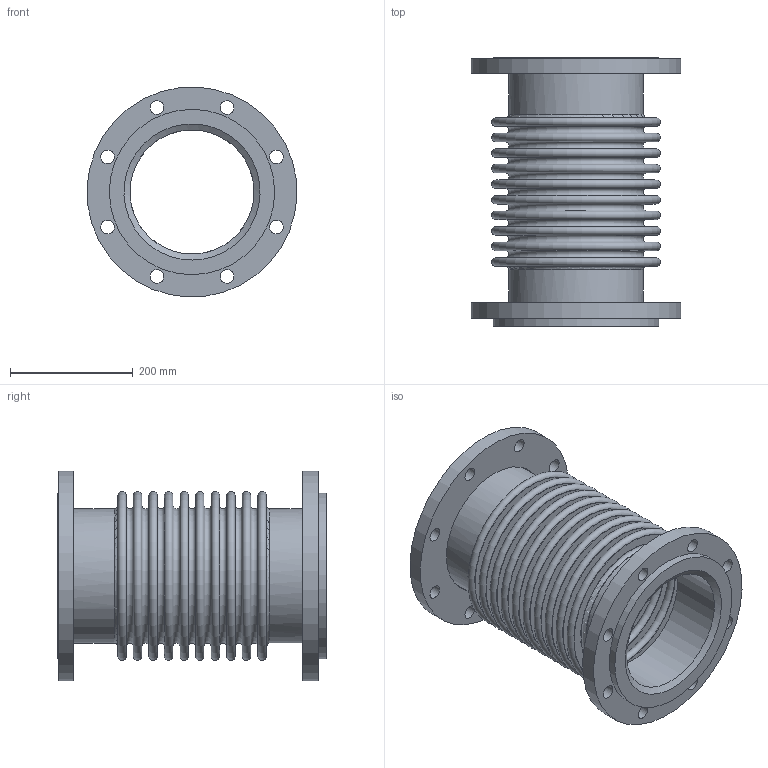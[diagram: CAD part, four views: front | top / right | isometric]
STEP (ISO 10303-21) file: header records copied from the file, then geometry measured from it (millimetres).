
FILE_DESCRIPTION(/* description */ (''),/* implementation_level */ '2;1');
FILE_NAME(/* name */ 'C:\001_Work\Designs\EFL250-ASA150LB\EFL250-8x17.25 (ASA150LB).stp',/* time_stamp */ '2016-05-11T00:13:57-04:00',/* author */ ('rramoutar'),/* organization */ ('Mason Industries Inc.'),/* preprocessor_version */ 'ST-DEVELOPER v15.6',/* originating_system */ 'Autodesk Inventor 2015',/* authorisation */ '');
FILE_SCHEMA (('CONFIG_CONTROL_DESIGN'));
Length unit declared in the file: inch
Products named in the file (1): EFL250-8x17.25-ASA150LB
Bounding box: 342.57 x 438.15 x 342.57 mm (x, y, z)
Volume: 4274586 mm3; surface area: 1699541.4 mm2
Topology: 1 solids, 1 shells, 123 faces, 227 edges, 155 vertices
Faces by surface type: plane 51, torus 42, cylinder 27, cone 3
Full cylindrical faces by diameter (mm): 22.225 x16, 202.692 x2, 219.202 x2, 222.25 x3, 269.875 x2, 342.9 x2
Entity records: 2855 total; most frequent: DIRECTION 526, CARTESIAN_POINT 402, EDGE_LOOP 278, ORIENTED_EDGE 278, AXIS2_PLACEMENT_3D 263, FACE_BOUND 155, CIRCLE 139, VERTEX_POINT 139
